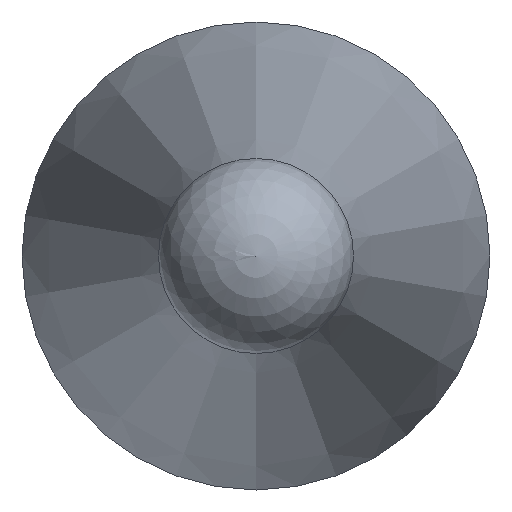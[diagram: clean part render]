
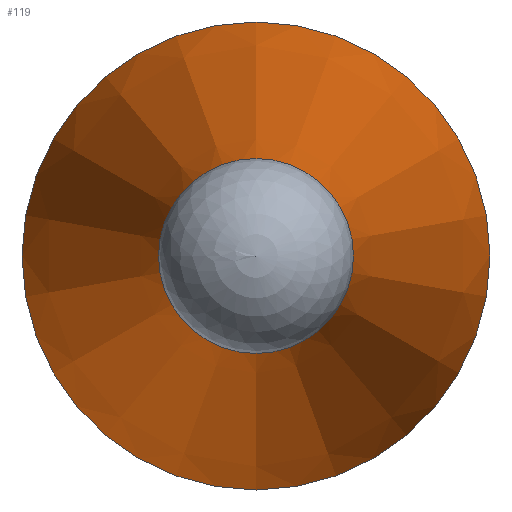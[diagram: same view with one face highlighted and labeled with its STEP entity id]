
A CAD part, left-side view. The second image highlights one B-rep face of the part: STEP entity #119.
In plain terms, the highlighted conical face has half-angle 11 degrees and reference radius 3 mm.
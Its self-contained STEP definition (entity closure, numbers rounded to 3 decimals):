
#93=CONICAL_SURFACE('',#191,3.,11.);
#106=FACE_BOUND('',#137,.T.);
#107=FACE_BOUND('',#138,.T.);
#119=ADVANCED_FACE('',(#106,#107),#93,.T.);
#137=EDGE_LOOP('',(#151));
#138=EDGE_LOOP('',(#152));
#151=ORIENTED_EDGE('',*,*,#168,.F.);
#152=ORIENTED_EDGE('',*,*,#169,.T.);
#161=VERTEX_POINT('',#244);
#162=VERTEX_POINT('',#247);
#168=EDGE_CURVE('',#161,#161,#175,.T.);
#169=EDGE_CURVE('',#162,#162,#176,.T.);
#175=CIRCLE('',#188,1.2);
#176=CIRCLE('',#190,3.);
#188=AXIS2_PLACEMENT_3D('',#243,#215,#216);
#190=AXIS2_PLACEMENT_3D('',#246,#219,#220);
#191=AXIS2_PLACEMENT_3D('',#248,#221,#222);
#215=DIRECTION('',(-1.,0.,0.));
#216=DIRECTION('',(0.,0.,1.));
#219=DIRECTION('',(-1.,0.,0.));
#220=DIRECTION('',(0.,0.,1.));
#221=DIRECTION('',(1.,0.,0.));
#222=DIRECTION('',(0.,0.,-1.));
#243=CARTESIAN_POINT('',(7867.056,6111.981,0.));
#244=CARTESIAN_POINT('',(7867.056,6111.981,1.2));
#246=CARTESIAN_POINT('',(7876.316,6111.981,0.));
#247=CARTESIAN_POINT('',(7876.316,6111.981,3.));
#248=CARTESIAN_POINT('',(7876.316,6111.981,0.));
